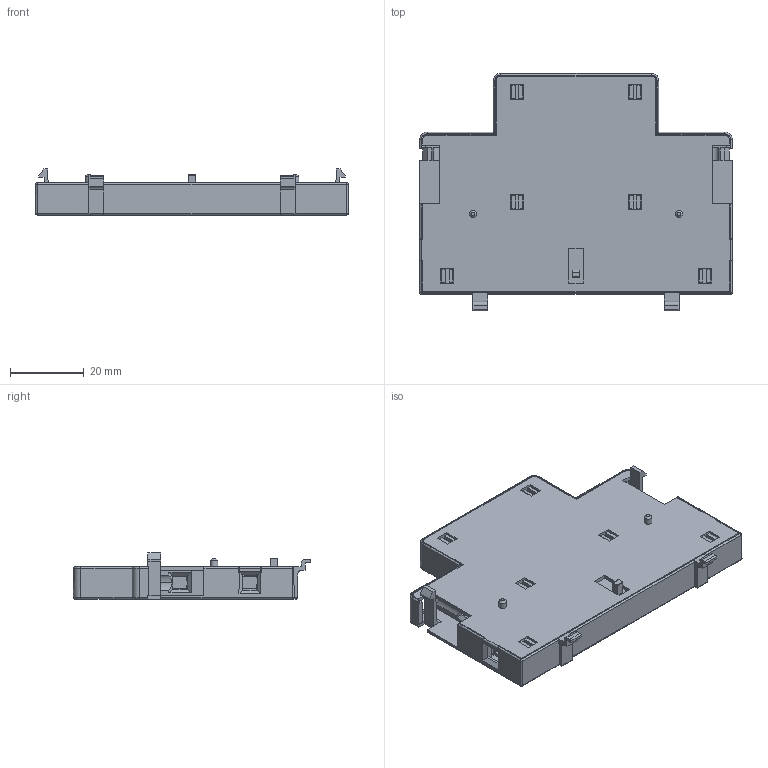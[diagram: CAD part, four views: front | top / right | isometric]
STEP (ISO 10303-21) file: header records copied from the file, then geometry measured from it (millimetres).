
FILE_DESCRIPTION(/* description */ ('Unknown'),/* implementation_level */ '2;1');
FILE_NAME(/* name */ '0227x',/* time_stamp */ '2023-07-03T16:58:20+02:00',/* author */ ('Unknown'),/* organization */ ('Unknown'),/* preprocessor_version */ 'ST-DEVELOPER v18.102',/* originating_system */ 'Solid Edge',/* authorisation */ 'Unknown');
FILE_SCHEMA (('AUTOMOTIVE_DESIGN {1 0 10303 214 3 1 1}'));
Length unit declared in the file: millimetre
Products named in the file (1): 0227x
Bounding box: 85 x 64.5 x 12.5 mm (x, y, z)
Surface area: 22687 mm2 (no closed solid volume)
Topology: 0 solids, 20 shells, 959 faces, 3364 edges, 2389 vertices
Faces by surface type: plane 650, cylinder 187, cone 58, bspline 32, torus 28, sphere 4
Full cylindrical faces by diameter (mm): 0.274 x1, 0.422 x1, 2 x4, 2.2 x2, 5 x2, 6.5 x2
Entity records: 38570 total; most frequent: CARTESIAN_POINT 10640, ORIENTED_EDGE 5598, DIRECTION 5225, EDGE_CURVE 3313, LINE 2493, VECTOR 2493, VERTEX_POINT 2372, AXIS2_PLACEMENT_3D 1366
